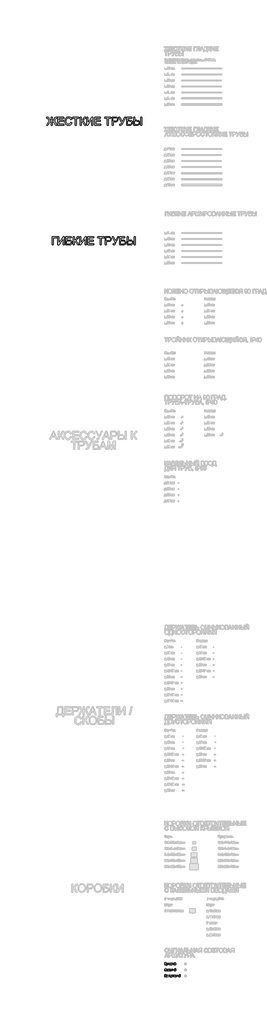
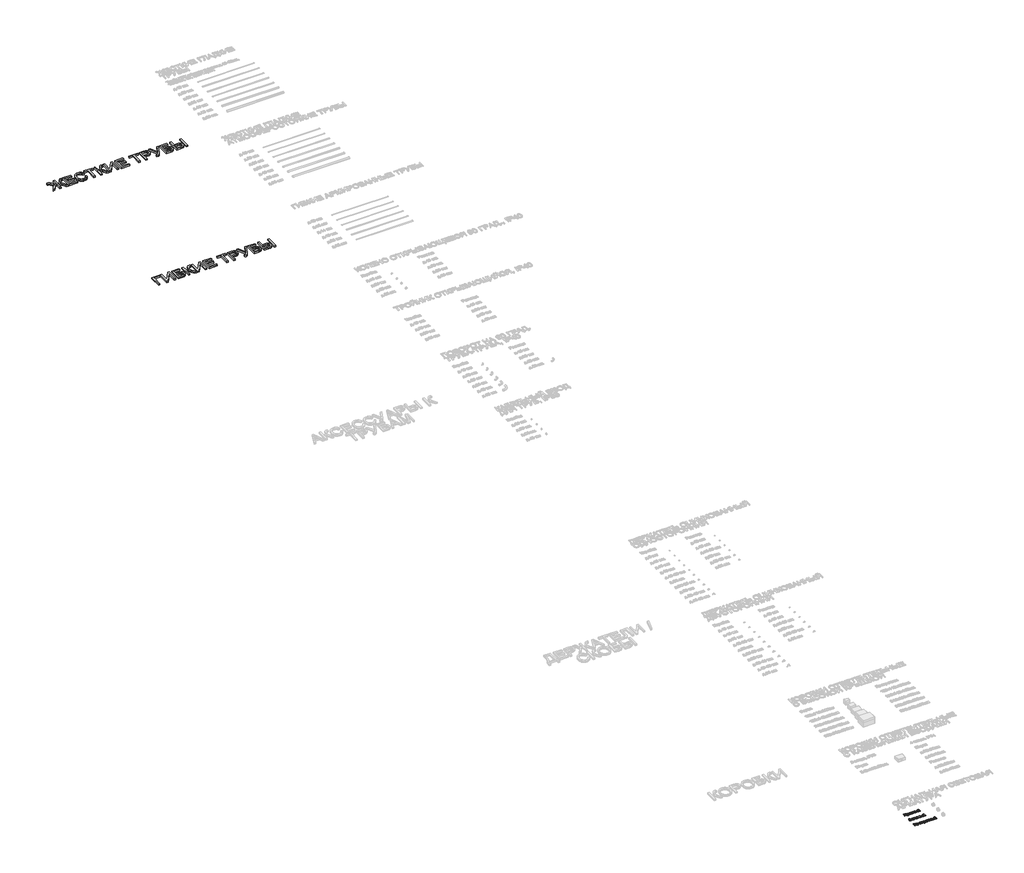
# One storey, part 6 of 98: 5 proxies.
"""IFC4 building model written with IfcOpenShell, lengths in millimetres."""

from ifc_helpers import new_model, si_unit, origin, origin_with_axes, place, context, project, spatial, polyline, outline, extrude, element, save

model = new_model("IFC4")

# Units and contexts
model_context = context("Model", 3, world=origin())
ifc_project = project(units=[si_unit("LENGTHUNIT", "METRE", prefix="MILLI")], contexts=[model_context])

# Site, building, storey
site = spatial("IfcSite", under=ifc_project)
building = spatial("IfcBuilding", under=site)
storey = spatial("IfcBuildingStorey", under=building, Name="Этаж 01", Elevation=0.0)

# Proxies
placement = place(None, origin())
element("IfcBuildingElementProxy", 1, Name="100", ObjectType="100", at=placement, inside=storey, context=model_context, shape_type="SweptSolid", body=[
    extrude(outline(polyline([(-36.4035925, -48303.7661071), (-23.8465538, -48303.7661071), (-23.8465538, -48347.7157428), (-9.8057243, -48344.3925421), (-0.0078005, -48327.580335), (6.9206438, -48313.5395055), (14.768793, -48306.5865358), (25.9891938, -48303.7661071), (34.2297505, -48303.9132599), (34.2297505, -48316.4702987), (31.4583728, -48316.3967223), (28.6869951, -48316.3231459), (18.8768086, -48319.3397783), (11.4210668, -48332.264699), (2.5305853, -48348.0100484), (-6.1391671, -48353.2094473), (3.5545235, -48358.8870927), (13.113324, -48370.7206303), (34.2297505, -48404.2224173), (19.6616235, -48404.2224173), (1.807084, -48375.9200291), (-10.7622175, -48361.1434356), (-23.8465538, -48357.1335219), (-23.8465538, -48404.2224173), (-36.4035925, -48404.2224173), (-36.4035925, -48303.7661071)])), origin_with_axes(), (0.0, 0.0, 1.0), 10.0),
    extrude(outline(polyline([(43.6475296, -48432.4757545), (43.6475296, -48330.4498145), (56.2045684, -48330.4498145), (56.2045684, -48342.7615986), (64.8865835, -48332.3505382), (76.6097564, -48328.8801847), (92.526784, -48333.736227), (102.9255818, -48347.4214372), (106.4327234, -48366.7720302), (102.4718606, -48387.1159045), (90.9694169, -48400.972793), (75.0891775, -48405.7920471), (64.1630822, -48402.5669483), (56.2045684, -48394.4122307), (56.2045684, -48432.4757545), (43.6475296, -48432.4757545)]), holes=[polyline([(56.2045684, -48367.9247271), (57.5626661, -48379.1819161), (61.6369592, -48387.0545908), (67.6487641, -48391.689904), (74.8193973, -48393.2350084), (82.1065265, -48391.6347217), (88.2716156, -48386.8338616), (92.4746674, -48378.6730127), (93.8756847, -48366.9927594), (92.5083899, -48355.796884), (88.4065057, -48347.8138447), (82.4038978, -48343.0313788), (75.3344321, -48341.4372234), (68.2373753, -48343.1325463), (62.0048412, -48348.2185149), (57.6546366, -48356.5357137), (56.2045684, -48367.9247271)])]), origin_with_axes(), (0.0, 0.0, 1.0), 10.0),
    extrude(outline(polyline([(167.6482874, -48394.8046382), (155.4713934, -48403.314975), (142.0191751, -48405.7920471), (131.5253412, -48404.302125), (123.7844909, -48399.8323588), (119.011222, -48393.044936), (117.4201324, -48384.6020442), (119.8236281, -48374.6692303), (126.1389357, -48367.4587432), (134.9313153, -48363.3384649), (145.7960969, -48361.450004), (167.574711, -48357.1335219), (167.6482874, -48354.3376187), (164.1901967, -48345.0669925), (150.3087827, -48341.4372234), (137.6045912, -48343.8529819), (131.546801, -48352.4246324), (118.9897622, -48350.8550025), (124.422153, -48338.5922693), (135.360511, -48331.4063077), (151.9274635, -48328.8801847), (167.1455154, -48331.1120021), (175.7416913, -48336.7160712), (179.5921896, -48345.2386707), (180.2053262, -48356.2260796), (180.2053262, -48371.8488017), (180.8429883, -48393.664204), (183.3445859, -48404.2224173), (170.7875471, -48404.2224173), (167.6482874, -48394.8046382)]), holes=[polyline([(167.6482874, -48369.6905607), (147.3902522, -48373.5410589), (136.5867843, -48375.5766726), (131.6939538, -48378.8876105), (129.9771711, -48383.7191274), (133.7173048, -48390.5126816), (144.6924509, -48393.2350084), (157.3966425, -48390.2306387), (165.5881483, -48382.958838), (167.574711, -48373.2467533), (167.6482874, -48369.6905607)])]), origin_with_axes(), (0.0, 0.0, 1.0), 10.0),
    extrude(outline(polyline([(244.5601499, -48377.5387099), (257.1171887, -48379.1083397), (253.6161784, -48390.276624), (247.037222, -48398.7164501), (237.9995877, -48404.0231479), (227.1225433, -48405.7920471), (213.7653612, -48403.3241721), (203.3205782, -48395.9205469), (196.5791407, -48383.9061341), (194.3319948, -48367.605896), (198.1702303, -48346.7469869), (209.8688778, -48333.3438195), (226.9508651, -48328.8801847), (237.5611949, -48330.4130263), (246.0439406, -48335.0115513), (252.129322, -48342.4305048), (255.5475588, -48352.4246324), (242.9905201, -48353.9942622), (237.1657218, -48344.5887459), (227.0489669, -48341.4372234), (218.9341033, -48342.9884592), (212.4931027, -48347.6421664), (208.2900509, -48355.6497312), (206.8890336, -48367.2625395), (208.259394, -48379.0316977), (212.3704753, -48387.0668536), (218.69498, -48391.6929697), (226.7056104, -48393.2350084), (238.5391479, -48389.3845101), (244.5601499, -48377.5387099)])), origin_with_axes(), (0.0, 0.0, 1.0), 10.0),
    extrude(outline(polyline([(268.1045976, -48330.4498145), (280.6616364, -48330.4498145), (280.6616364, -48358.7031517), (313.6238631, -48358.7031517), (313.6238631, -48330.4498145), (326.1809019, -48330.4498145), (326.1809019, -48404.2224173), (313.6238631, -48404.2224173), (313.6238631, -48371.2601905), (280.6616364, -48371.2601905), (280.6616364, -48404.2224173), (268.1045976, -48404.2224173), (268.1045976, -48330.4498145)])), origin_with_axes(), (0.0, 0.0, 1.0), 10.0),
    extrude(outline(polyline([(414.0801733, -48330.4498145), (426.637212, -48330.4498145), (426.637212, -48404.2224173), (414.0801733, -48404.2224173), (414.0801733, -48330.4498145)])), origin_with_axes(), (0.0, 0.0, 1.0), 10.0),
    extrude(outline(polyline([(345.0164601, -48330.4498145), (357.5734988, -48330.4498145), (357.5734988, -48357.1335219), (373.098119, -48357.1335219), (386.5166148, -48358.7062174), (396.4586257, -48363.424304), (402.6114521, -48370.9076369), (404.6623942, -48380.7760715), (402.9425459, -48389.7615892), (397.7830009, -48397.343024), (388.8465341, -48402.502569), (375.7959203, -48404.2224173), (345.0164601, -48404.2224173), (345.0164601, -48330.4498145)]), holes=[polyline([(357.5734988, -48391.6653785), (370.4738941, -48391.6653785), (387.1266858, -48389.0288909), (392.1053554, -48380.8005969), (388.4142728, -48373.075075), (372.1171004, -48369.6905607), (357.5734988, -48369.6905607), (357.5734988, -48391.6653785)])]), origin_with_axes(), (0.0, 0.0, 1.0), 10.0),
    extrude(outline(polyline([(445.4727702, -48330.4498145), (458.029809, -48330.4498145), (458.029809, -48386.7112343), (488.8828456, -48330.4498145), (505.1187044, -48330.4498145), (505.1187044, -48404.2224173), (492.5616656, -48404.2224173), (492.5616656, -48348.304354), (461.9048327, -48404.2224173), (445.4727702, -48404.2224173), (445.4727702, -48330.4498145)])), origin_with_axes(), (0.0, 0.0, 1.0), 10.0),
    extrude(outline(polyline([(486.2831462, -48303.7661071), (495.7009253, -48303.7661071), (489.6063469, -48317.7333602), (476.0805522, -48322.6016653), (461.4388488, -48317.7701484), (454.8905493, -48303.7661071), (464.3083284, -48303.7661071), (467.8399955, -48310.8417042), (474.9523807, -48313.1838862), (482.751479, -48310.9152806), (486.2831462, -48303.7661071)])), origin_with_axes(), (0.0, 0.0, 1.0), 10.0),
])
element("IfcBuildingElementProxy", 2, Name="100", ObjectType="100", at=placement, inside=storey, context=model_context, shape_type="SweptSolid", body=[
    extrude(outline(polyline([(-41.1124821, -48675.9690801), (-28.5554433, -48672.8298204), (-20.8421842, -48686.4291915), (-13.555055, -48691.5335541), (-4.2261807, -48693.2350084), (12.4388737, -48688.1214486), (17.0098075, -48682.4775257), (18.5334521, -48675.7728763), (16.868786, -48668.7493959), (11.874788, -48663.3262022), (-6.2617944, -48658.7031517), (-12.8591449, -48658.7031517), (-12.8591449, -48646.146113), (1.3533629, -48645.1283061), (10.0476407, -48639.9289073), (13.8245625, -48630.4252891), (8.7968419, -48619.4256174), (-4.8147919, -48614.7535161), (-17.6293481, -48618.3464969), (-24.9624625, -48627.8746406), (-26.9858135, -48636.7283339), (-39.5428522, -48633.5890742), (-35.6417702, -48619.8548131), (-28.5738374, -48610.0446265), (-18.3390537, -48604.1585146), (-4.9374192, -48602.1964773), (7.9905672, -48604.2351567), (17.9325781, -48610.3511948), (24.2693455, -48619.1956911), (26.3816013, -48629.4197449), (23.0951888, -48641.848025), (13.2359513, -48651.1247826), (25.9646684, -48659.7700095), (31.0904908, -48675.4049943), (28.6318128, -48687.2967798), (21.2557788, -48697.0732438), (9.8207801, -48703.6123463), (-4.8147919, -48705.7920471), (-17.5496403, -48703.9281117), (-27.8442048, -48698.3363054), (-35.6984854, -48689.0166282), (-41.1124821, -48675.9690801)])), origin_with_axes(), (0.0, 0.0, 1.0), 10.0),
    extrude(outline(polyline([(98.4374214, -48682.2475994), (110.7492055, -48683.8172293), (106.3131618, -48693.0939869), (99.2344991, -48700.0285625), (89.6726329, -48704.351176), (77.7869788, -48705.7920471), (63.0533048, -48703.305778), (51.716408, -48695.8469705), (44.4875268, -48683.9000027), (42.0778998, -48667.9492526), (44.5120523, -48651.4620078), (51.8145099, -48639.1318296), (62.9981225, -48631.4430959), (77.0757402, -48628.8801847), (90.7149652, -48631.4369645), (101.6134693, -48639.1073041), (108.7595771, -48651.4129569), (111.141613, -48667.8756762), (111.0680366, -48671.2601905), (54.6349385, -48671.2601905), (56.808508, -48680.6595755), (61.8576884, -48687.5696256), (69.1448176, -48691.8186627), (78.0322334, -48693.2350084), (90.3440175, -48690.6107835), (98.4374214, -48682.2475994)]), holes=[polyline([(54.6349385, -48658.7031517), (98.5845742, -48658.7031517), (93.5568536, -48647.3233354), (86.2360019, -48642.9087514), (77.0266893, -48641.4372234), (61.5633828, -48646.1338502), (56.6981434, -48651.624489), (54.6349385, -48658.7031517)])]), origin_with_axes(), (0.0, 0.0, 1.0), 10.0),
    extrude(outline(polyline([(129.9771711, -48630.4498145), (186.4838456, -48630.4498145), (186.4838456, -48704.1488409), (173.9268068, -48704.1488409), (173.9268068, -48643.0068533), (142.5342099, -48643.0068533), (142.5342099, -48678.2008975), (141.6880813, -48694.4367562), (137.0405054, -48701.2916241), (126.0530965, -48704.2224173), (115.8505025, -48703.5847552), (115.8505025, -48691.6653785), (121.4668343, -48691.6653785), (127.1444798, -48690.8928263), (129.4130854, -48688.4402797), (129.9771711, -48677.489659), (129.9771711, -48630.4498145)])), origin_with_axes(), (0.0, 0.0, 1.0), 10.0),
    extrude(outline(polyline([(256.9700359, -48682.2475994), (269.28182, -48683.8172293), (264.8457763, -48693.0939869), (257.7671135, -48700.0285625), (248.2052473, -48704.351176), (236.3195932, -48705.7920471), (221.5859193, -48703.305778), (210.2490225, -48695.8469705), (203.0201413, -48683.9000027), (200.6105142, -48667.9492526), (203.0446667, -48651.4620078), (210.3471244, -48639.1318296), (221.530737, -48631.4430959), (235.6083547, -48628.8801847), (249.2475797, -48631.4369645), (260.1460838, -48639.1073041), (267.2921915, -48651.4129569), (269.6742274, -48667.8756762), (269.600651, -48671.2601905), (213.167553, -48671.2601905), (215.3411224, -48680.6595755), (220.3903028, -48687.5696256), (227.677432, -48691.8186627), (236.5648479, -48693.2350084), (248.876632, -48690.6107835), (256.9700359, -48682.2475994)]), holes=[polyline([(213.167553, -48658.7031517), (257.1171887, -48658.7031517), (252.0894681, -48647.3233354), (244.7686164, -48642.9087514), (235.5593038, -48641.4372234), (220.0959972, -48646.1338502), (215.2307578, -48651.624489), (213.167553, -48658.7031517)])]), origin_with_axes(), (0.0, 0.0, 1.0), 10.0),
    extrude(outline(polyline([(282.2312662, -48630.4498145), (294.788305, -48630.4498145), (294.788305, -48658.7031517), (327.7505317, -48658.7031517), (327.7505317, -48630.4498145), (340.3075705, -48630.4498145), (340.3075705, -48704.2224173), (327.7505317, -48704.2224173), (327.7505317, -48671.2601905), (294.788305, -48671.2601905), (294.788305, -48704.2224173), (282.2312662, -48704.2224173), (282.2312662, -48630.4498145)])), origin_with_axes(), (0.0, 0.0, 1.0), 10.0),
    extrude(outline(polyline([(428.2068419, -48630.4498145), (440.7638807, -48630.4498145), (440.7638807, -48704.2224173), (428.2068419, -48704.2224173), (428.2068419, -48630.4498145)])), origin_with_axes(), (0.0, 0.0, 1.0), 10.0),
    extrude(outline(polyline([(359.1431287, -48630.4498145), (371.7001674, -48630.4498145), (371.7001674, -48657.1335219), (387.2247876, -48657.1335219), (400.6432834, -48658.7062174), (410.5852943, -48663.424304), (416.7381207, -48670.9076369), (418.7890628, -48680.7760715), (417.0692145, -48689.7615892), (411.9096695, -48697.343024), (402.9732027, -48702.502569), (389.9225889, -48704.2224173), (359.1431287, -48704.2224173), (359.1431287, -48630.4498145)]), holes=[polyline([(371.7001674, -48691.6653785), (384.6005627, -48691.6653785), (401.2533544, -48689.0288909), (406.232024, -48680.8005969), (402.5409414, -48673.075075), (386.243769, -48669.6905607), (371.7001674, -48669.6905607), (371.7001674, -48691.6653785)])]), origin_with_axes(), (0.0, 0.0, 1.0), 10.0),
    extrude(outline(polyline([(500.4098148, -48603.7661071), (509.8275939, -48603.7661071), (503.7330155, -48617.7333602), (490.2072208, -48622.6016653), (475.5655174, -48617.7701484), (469.0172179, -48603.7661071), (478.434997, -48603.7661071), (481.9666641, -48610.8417042), (489.0790494, -48613.1838862), (496.8781477, -48610.9152806), (500.4098148, -48603.7661071)])), origin_with_axes(), (0.0, 0.0, 1.0), 10.0),
    extrude(outline(polyline([(459.5994388, -48630.4498145), (472.1564776, -48630.4498145), (472.1564776, -48686.7112343), (503.0095142, -48630.4498145), (519.245373, -48630.4498145), (519.245373, -48704.2224173), (506.6883342, -48704.2224173), (506.6883342, -48648.304354), (476.0315013, -48704.2224173), (459.5994388, -48704.2224173), (459.5994388, -48630.4498145)])), origin_with_axes(), (0.0, 0.0, 1.0), 10.0),
])
element("IfcBuildingElementProxy", 3, Name="100", ObjectType="100", at=placement, inside=storey, context=model_context, shape_type="SweptSolid", body=[
    extrude(outline(polyline([(-36.4035925, -48903.7661071), (42.0778998, -48903.7661071), (42.0778998, -49004.2224173), (29.520861, -49004.2224173), (29.520861, -48916.3231459), (-23.8465538, -48916.3231459), (-23.8465538, -49004.2224173), (-36.4035925, -49004.2224173), (-36.4035925, -48903.7661071)])), origin_with_axes(), (0.0, 0.0, 1.0), 10.0),
    extrude(outline(polyline([(62.4830878, -49032.4757545), (62.4830878, -48930.4498145), (75.0401265, -48930.4498145), (75.0401265, -48942.7615986), (83.7221416, -48932.3505382), (95.4453145, -48928.8801847), (111.3623422, -48933.736227), (121.7611399, -48947.4214372), (125.2682816, -48966.7720302), (121.3074188, -48987.1159045), (109.8049751, -49000.972793), (93.9247356, -49005.7920471), (82.9986404, -49002.5669483), (75.0401265, -48994.4122307), (75.0401265, -49032.4757545), (62.4830878, -49032.4757545)]), holes=[polyline([(75.0401265, -48967.9247271), (76.3982242, -48979.1819161), (80.4725173, -48987.0545908), (86.4843223, -48991.689904), (93.6549555, -48993.2350084), (100.9420847, -48991.6347217), (107.1071738, -48986.8338616), (111.3102256, -48978.6730127), (112.7112428, -48966.9927594), (111.3439481, -48955.796884), (107.2420638, -48947.8138447), (101.2394559, -48943.0313788), (94.1699903, -48941.4372234), (87.0729335, -48943.1325463), (80.8403993, -48948.2185149), (76.4901947, -48956.5357137), (75.0401265, -48967.9247271)])]), origin_with_axes(), (0.0, 0.0, 1.0), 10.0),
    extrude(outline(polyline([(136.2556905, -48967.3361159), (138.9718859, -48949.5490214), (147.1204721, -48937.047165), (157.188176, -48930.9219297), (169.2424428, -48928.8801847), (182.434078, -48931.3664538), (192.9708314, -48938.8252613), (199.8778159, -48950.6679958), (202.1801441, -48966.3060463), (198.1089166, -48988.6487462), (186.2508537, -49001.2916241), (169.2424428, -49005.7920471), (155.891392, -49003.314975), (145.3669013, -48995.8837587), (138.5334932, -48983.7927038), (136.2556905, -48967.3361159)]), holes=[polyline([(148.8127293, -48967.3115904), (150.2658632, -48978.6760784), (154.6252648, -48986.772548), (161.1858271, -48991.6193933), (169.2424428, -48993.2350084), (177.2622703, -48991.6101962), (183.8105698, -48986.7357598), (188.1699714, -48978.5319913), (189.6231053, -48966.919183), (188.1607744, -48955.8857888), (183.7737816, -48947.8996838), (177.216285, -48943.0528385), (169.2424428, -48941.4372234), (161.1858271, -48943.0467072), (154.6252648, -48947.8751584), (150.2658632, -48955.9532338), (148.8127293, -48967.3115904)])]), origin_with_axes(), (0.0, 0.0, 1.0), 10.0),
    extrude(outline(polyline([(233.572741, -48971.2601905), (233.572741, -48958.7031517), (243.4810294, -48958.2126424), (248.4842245, -48955.6006803), (250.8386693, -48950.143764), (247.6871469, -48943.8039309), (239.5569548, -48941.4372234), (231.1569825, -48943.7916682), (225.7245917, -48950.8550025), (211.5979231, -48949.2853727), (221.0402277, -48933.9814817), (238.2816305, -48928.8801847), (248.7785301, -48930.4344861), (256.7247812, -48935.0973904), (261.7279763, -48941.9185357), (263.3957081, -48949.9475603), (261.0228692, -48957.7466586), (253.9043526, -48963.7799233), (262.2062229, -48971.603547), (264.9653379, -48982.8607361), (263.2148327, -48992.1037712), (257.9633173, -48999.4276886), (249.5664107, -49004.2009575), (238.3797324, -49005.7920471), (227.4383087, -49004.3205191), (219.0659276, -48999.9059352), (213.2625892, -48992.5482953), (210.0282933, -48982.2475994), (224.1549619, -48980.6779696), (229.8203446, -48989.9485959), (239.5814802, -48993.2350084), (248.7540046, -48990.0834859), (252.4082991, -48982.0268702), (250.1396935, -48975.4295198), (245.3081766, -48971.8978526), (236.0252876, -48971.1866141), (233.572741, -48971.2601905)])), origin_with_axes(), (0.0, 0.0, 1.0), 10.0),
    extrude(outline(polyline([(280.6616364, -49032.4757545), (280.6616364, -48930.4498145), (293.2186751, -48930.4498145), (293.2186751, -48942.7615986), (301.9006902, -48932.3505382), (313.6238631, -48928.8801847), (329.5408908, -48933.736227), (339.9396885, -48947.4214372), (343.4468302, -48966.7720302), (339.4859674, -48987.1159045), (327.9835237, -49000.972793), (312.1032842, -49005.7920471), (301.177189, -49002.5669483), (293.2186751, -48994.4122307), (293.2186751, -49032.4757545), (280.6616364, -49032.4757545)]), holes=[polyline([(293.2186751, -48967.9247271), (294.5767728, -48979.1819161), (298.6510659, -48987.0545908), (304.6628709, -48991.689904), (311.8335041, -48993.2350084), (319.1206333, -48991.6347217), (325.2857224, -48986.8338616), (329.4887742, -48978.6730127), (330.8897914, -48966.9927594), (329.5224967, -48955.796884), (325.4206124, -48947.8138447), (319.4180046, -48943.0313788), (312.3485389, -48941.4372234), (305.2514821, -48943.1325463), (299.0189479, -48948.2185149), (294.6687433, -48956.5357137), (293.2186751, -48967.9247271)])]), origin_with_axes(), (0.0, 0.0, 1.0), 10.0),
    extrude(outline(polyline([(404.6623942, -48994.8046382), (392.4855002, -49003.314975), (379.0332819, -49005.7920471), (368.539448, -49004.302125), (360.7985976, -48999.8323588), (356.0253288, -48993.044936), (354.4342391, -48984.6020442), (356.8377348, -48974.6692303), (363.1530424, -48967.4587432), (371.9454221, -48963.3384649), (382.8102037, -48961.450004), (404.5888178, -48957.1335219), (404.6623942, -48954.3376187), (401.2043034, -48945.0669925), (387.3228895, -48941.4372234), (374.6186979, -48943.8529819), (368.5609077, -48952.4246324), (356.003869, -48950.8550025), (361.4362598, -48938.5922693), (372.3746178, -48931.4063077), (388.9415703, -48928.8801847), (404.1596221, -48931.1120021), (412.7557981, -48936.7160712), (416.6062963, -48945.2386707), (417.219433, -48956.2260796), (417.219433, -48971.8488017), (417.8570951, -48993.664204), (420.3586927, -49004.2224173), (407.8016539, -49004.2224173), (404.6623942, -48994.8046382)]), holes=[polyline([(404.6623942, -48969.6905607), (384.404359, -48973.5410589), (373.6008911, -48975.5766726), (368.7080605, -48978.8876105), (366.9912779, -48983.7191274), (370.7314115, -48990.5126816), (381.7065577, -48993.2350084), (394.4107493, -48990.2306387), (402.602255, -48982.958838), (404.5888178, -48973.2467533), (404.6623942, -48969.6905607)])]), origin_with_axes(), (0.0, 0.0, 1.0), 10.0),
    extrude(outline(polyline([(429.7764717, -48930.4498145), (442.3335105, -48930.4498145), (442.3335105, -48944.6010086), (443.3513174, -48957.8692859), (448.2441479, -48965.0552475), (457.9562326, -48968.1209308), (475.2957373, -48964.3194835), (475.2957373, -48930.4498145), (487.852776, -48930.4498145), (487.852776, -49004.2224173), (475.2957373, -49004.2224173), (475.2957373, -48976.3614875), (454.5962437, -48980.6779696), (440.3592105, -48976.1775465), (431.9837637, -48965.1533494), (429.7764717, -48950.8059516), (429.7764717, -48930.4498145)])), origin_with_axes(), (0.0, 0.0, 1.0), 10.0),
    extrude(outline(polyline([(506.6883342, -48930.4498145), (519.245373, -48930.4498145), (519.245373, -48958.7031517), (552.2075997, -48958.7031517), (552.2075997, -48930.4498145), (564.7646385, -48930.4498145), (564.7646385, -49004.2224173), (552.2075997, -49004.2224173), (552.2075997, -48971.2601905), (519.245373, -48971.2601905), (519.245373, -49004.2224173), (506.6883342, -49004.2224173), (506.6883342, -48930.4498145)])), origin_with_axes(), (0.0, 0.0, 1.0), 10.0),
    extrude(outline(polyline([(583.6001967, -48930.4498145), (596.1572354, -48930.4498145), (596.1572354, -48957.1335219), (611.6818556, -48957.1335219), (625.1003514, -48958.7062174), (635.0423623, -48963.424304), (641.1951887, -48970.9076369), (643.2461308, -48980.7760715), (641.5262825, -48989.7615892), (636.3667375, -48997.343024), (627.4302707, -49002.502569), (614.3796569, -49004.2224173), (583.6001967, -49004.2224173), (583.6001967, -48930.4498145)]), holes=[polyline([(596.1572354, -48991.6653785), (609.0576307, -48991.6653785), (625.7104224, -48989.0288909), (630.689092, -48980.8005969), (626.9980094, -48973.075075), (610.700837, -48969.6905607), (596.1572354, -48969.6905607), (596.1572354, -48991.6653785)])]), origin_with_axes(), (0.0, 0.0, 1.0), 10.0),
    extrude(outline(polyline([(652.6639099, -48930.4498145), (665.2209487, -48930.4498145), (665.2209487, -49004.2224173), (652.6639099, -49004.2224173), (652.6639099, -48930.4498145)])), origin_with_axes(), (0.0, 0.0, 1.0), 10.0),
    extrude(outline(polyline([(724.8668828, -48903.7661071), (734.2846619, -48903.7661071), (728.1900835, -48917.7333602), (714.6642888, -48922.6016653), (700.0225854, -48917.7701484), (693.4742859, -48903.7661071), (702.892065, -48903.7661071), (706.4237321, -48910.8417042), (713.5361174, -48913.1838862), (721.3352157, -48910.9152806), (724.8668828, -48903.7661071)])), origin_with_axes(), (0.0, 0.0, 1.0), 10.0),
    extrude(outline(polyline([(684.0565068, -48930.4498145), (696.6135456, -48930.4498145), (696.6135456, -48986.7112343), (727.4665822, -48930.4498145), (743.702441, -48930.4498145), (743.702441, -49004.2224173), (731.1454022, -49004.2224173), (731.1454022, -48948.304354), (700.4885693, -49004.2224173), (684.0565068, -49004.2224173), (684.0565068, -48930.4498145)])), origin_with_axes(), (0.0, 0.0, 1.0), 10.0),
])
element("IfcBuildingElementProxy", 4, Name="400", ObjectType="400", at=placement, inside=storey, context=model_context, shape_type="SweptSolid", body=[
    extrude(outline(polyline([(-5654.9304069, -6037.3892759), (-5654.9304069, -6213.1878187), (-5618.1912583, -6209.8033043), (-5595.088269, -6199.6497612), (-5577.0130003, -6176.1543645), (-5555.3570135, -6132.744289), (-5526.9074725, -6076.5809711), (-5513.3571524, -6061.2893428), (-5495.0734172, -6048.6709904), (-5473.4296932, -6040.2097045), (-5449.7994064, -6037.3892759), (-5416.3466703, -6037.9778871), (-5416.3466703, -6087.617431), (-5427.3340792, -6087.3231254), (-5438.6157937, -6087.0288198), (-5462.086665, -6090.0945031), (-5478.5432529, -6099.2915529), (-5492.8170743, -6118.2497384), (-5508.9548312, -6150.5988285), (-5526.2575477, -6186.0503901), (-5541.0831921, -6208.0374707), (-5557.723721, -6222.0047238), (-5580.471091, -6233.3968029), (-5560.4644419, -6242.0052416), (-5540.764361, -6256.8431488), (-5521.3708485, -6277.9105243), (-5502.2839043, -6305.2073684), (-5416.3466703, -6439.2145165), (-5474.7172802, -6439.2145165), (-5547.6069661, -6325.5144545), (-5575.0632257, -6290.6147159), (-5597.7860703, -6267.7324558), (-5622.250223, -6255.0773152), (-5654.9304069, -6250.858935), (-5654.9304069, -6439.2145165), (-5705.1585619, -6439.2145165), (-5705.1585619, -6250.858935), (-5732.6638724, -6254.1330847), (-5756.7110922, -6263.955534), (-5780.9054647, -6284.5937139), (-5808.8522336, -6320.3150557), (-5812.4820027, -6325.5144545), (-5885.3716886, -6439.2145165), (-5943.7422985, -6439.2145165), (-5857.9031663, -6305.2073684), (-5838.5096538, -6277.8001597), (-5818.9812512, -6256.695996), (-5799.3179586, -6241.894877), (-5779.5197759, -6233.3968029), (-5800.2683204, -6223.4517263), (-5816.7984847, -6210.6862211), (-5832.5928851, -6188.5765132), (-5851.1341376, -6150.5988285), (-5868.0812349, -6116.6555831), (-5882.4286327, -6098.2124324), (-5898.590915, -6090.2661813), (-5921.1788695, -6087.617431), (-5943.7422985, -6088.2060422), (-5943.7422985, -6037.9778871), (-5912.055396, -6037.3892759), (-5886.6960638, -6040.1483909), (-5864.9665006, -6048.4257357), (-5847.1978003, -6060.8601472), (-5833.7210565, -6076.0904618), (-5804.7319553, -6132.8423909), (-5783.0637058, -6176.7307129), (-5765.1478526, -6199.8950159), (-5742.1307025, -6209.6193633), (-5705.1585619, -6213.1878187), (-5705.1585619, -6037.3892759), (-5654.9304069, -6037.3892759)])), origin_with_axes(), (0.0, 0.0, 1.0), 50.0),
    extrude(outline(polyline([(-5378.675554, -6439.2145165), (-5378.675554, -6037.3892759), (-5089.8636623, -6037.3892759), (-5089.8636623, -6087.617431), (-5328.4473989, -6087.617431), (-5328.4473989, -6206.9092993), (-5102.420701, -6206.9092993), (-5102.420701, -6257.1374543), (-5328.4473989, -6257.1374543), (-5328.4473989, -6388.9863614), (-5083.5851429, -6388.9863614), (-5083.5851429, -6439.2145165), (-5378.675554, -6439.2145165)])), origin_with_axes(), (0.0, 0.0, 1.0), 50.0),
    extrude(outline(polyline([(-4725.709538, -6296.3782005), (-4675.4813829, -6309.3276467), (-4685.4203281, -6340.5638938), (-4698.6579486, -6367.8576722), (-4715.1942443, -6391.2089818), (-4735.0292152, -6410.6178227), (-4757.7152716, -6425.8757285), (-4782.8048236, -6436.7742326), (-4810.2978714, -6443.3133351), (-4840.1944149, -6445.4930359), (-4870.8236567, -6443.8436983), (-4898.4546602, -6438.8956854), (-4923.0874254, -6430.6489974), (-4944.7219524, -6419.1036341), (-4963.6556125, -6404.4312738), (-4980.1857768, -6386.8035949), (-4994.3124454, -6366.2205973), (-5006.0356183, -6342.682281), (-5021.8177559, -6290.8109196), (-5027.0784684, -6235.2607384), (-5021.1310428, -6176.6693993), (-5013.6967609, -6150.371968), (-5003.2887661, -6126.0733622), (-4990.1400504, -6104.1751864), (-4974.4836059, -6085.0790452), (-4956.3194323, -6068.7849385), (-4935.6475299, -6055.2928663), (-4913.16994, -6044.7131933), (-4889.5887041, -6037.156284), (-4839.1152944, -6031.1107565), (-4810.3867762, -6033.0666625), (-4784.0433597, -6038.9343803), (-4760.0850447, -6048.71391), (-4738.5118314, -6062.4052516), (-4719.6793389, -6079.6466544), (-4703.9431866, -6100.0763679), (-4691.3033744, -6123.694392), (-4681.7599023, -6150.5007267), (-4731.9880574, -6162.4691543), (-4749.4011385, -6125.8403703), (-4773.1908408, -6100.71403), (-4803.65147, -6086.1826912), (-4841.0773317, -6081.3389116), (-4884.217627, -6086.7099887), (-4902.899901, -6093.4238351), (-4919.6569258, -6102.8232201), (-4946.5490997, -6127.9863486), (-4964.0480199, -6160.5071169), (-4973.64974, -6197.270791), (-4976.8503134, -6235.1626365), (-4973.0611288, -6281.5648188), (-4961.6935752, -6321.6884818), (-4942.3184567, -6354.0007837), (-4914.5065779, -6376.9688829), (-4881.1642064, -6390.6908813), (-4845.19761, -6395.2648808), (-4823.3607479, -6393.7075137), (-4803.2713253, -6389.0354124), (-4784.9293422, -6381.2485768), (-4768.3347985, -6370.347007), (-4753.8801018, -6356.3797539), (-4741.9576594, -6339.3958685), (-4732.5674715, -6319.3953507), (-4725.709538, -6296.3782005)])), origin_with_axes(), (0.0, 0.0, 1.0), 50.0),
    extrude(outline(polyline([(-4505.9613595, -6439.2145165), (-4505.9613595, -6087.617431), (-4637.8102666, -6087.617431), (-4637.8102666, -6037.3892759), (-4323.8842974, -6037.3892759), (-4323.8842974, -6087.617431), (-4455.7332045, -6087.617431), (-4455.7332045, -6439.2145165), (-4505.9613595, -6439.2145165)])), origin_with_axes(), (0.0, 0.0, 1.0), 50.0),
    extrude(outline(polyline([(-4267.3776229, -6037.3892759), (-4217.1494678, -6037.3892759), (-4217.1494678, -6213.1878187), (-4183.1449088, -6209.864618), (-4160.9861499, -6199.8950159), (-4143.0702968, -6176.4364073), (-4121.7944547, -6132.6461872), (-4094.0806777, -6076.4828692), (-4080.7142986, -6061.2648174), (-4062.6880808, -6048.6709904), (-4041.2896114, -6040.2097045), (-4017.8064774, -6037.3892759), (-3984.8442506, -6037.9778871), (-3984.8442506, -6088.2060422), (-3995.9297614, -6087.9117366), (-4007.0152722, -6087.617431), (-4030.0201596, -6090.6340633), (-4046.2560184, -6099.6839604), (-4060.2355342, -6118.6911968), (-4076.0789854, -6151.3836435), (-4095.5154175, -6192.0959176), (-4111.6409116, -6214.365041), (-4127.5456766, -6226.088214), (-4146.319921, -6235.1626365), (-4126.8650949, -6243.4399814), (-4107.5451588, -6257.8732183), (-4088.3601127, -6278.4623473), (-4069.3099567, -6305.2073684), (-3984.8442506, -6439.2145165), (-4043.1167587, -6439.2145165), (-4114.5349167, -6326.0049638), (-4142.1138036, -6289.6950109), (-4164.8121227, -6266.89859), (-4188.0254766, -6254.8688487), (-4217.1494678, -6250.858935), (-4217.1494678, -6439.2145165), (-4267.3776229, -6439.2145165), (-4267.3776229, -6037.3892759)])), origin_with_axes(), (0.0, 0.0, 1.0), 50.0),
    extrude(outline(polyline([(-3940.8946149, -6037.3892759), (-3890.6664599, -6037.3892759), (-3890.6664599, -6355.6317272), (-3680.3360605, -6037.3892759), (-3626.9686457, -6037.3892759), (-3626.9686457, -6439.2145165), (-3677.1968008, -6439.2145165), (-3677.1968008, -6121.854982), (-3887.0366908, -6439.2145165), (-3940.8946149, -6439.2145165), (-3940.8946149, -6037.3892759)])), origin_with_axes(), (0.0, 0.0, 1.0), 50.0),
    extrude(outline(polyline([(-3539.0693743, -6439.2145165), (-3539.0693743, -6037.3892759), (-3250.2574827, -6037.3892759), (-3250.2574827, -6087.617431), (-3488.8412193, -6087.617431), (-3488.8412193, -6206.9092993), (-3262.8145214, -6206.9092993), (-3262.8145214, -6257.1374543), (-3488.8412193, -6257.1374543), (-3488.8412193, -6388.9863614), (-3243.9789633, -6388.9863614), (-3243.9789633, -6439.2145165), (-3539.0693743, -6439.2145165)])), origin_with_axes(), (0.0, 0.0, 1.0), 50.0),
    extrude(outline(polyline([(-2911.2174359, -6439.2145165), (-2911.2174359, -6087.617431), (-3043.066343, -6087.617431), (-3043.066343, -6037.3892759), (-2729.1403738, -6037.3892759), (-2729.1403738, -6087.617431), (-2860.9892808, -6087.617431), (-2860.9892808, -6439.2145165), (-2911.2174359, -6439.2145165)])), origin_with_axes(), (0.0, 0.0, 1.0), 50.0),
    extrude(outline(polyline([(-2672.6336993, -6439.2145165), (-2672.6336993, -6037.3892759), (-2523.7150677, -6037.3892759), (-2463.676726, -6041.2152486), (-2436.9071795, -6048.3644221), (-2414.871048, -6060.0017559), (-2397.1268731, -6076.6545475), (-2383.2331964, -6098.8500946), (-2374.2568757, -6125.0310299), (-2371.2647689, -6153.6399864), (-2373.2850541, -6178.3064741), (-2379.34591, -6200.9986619), (-2389.4473365, -6221.7165496), (-2403.5893335, -6240.4601372), (-2423.0043058, -6255.9970202), (-2448.924658, -6267.0947937), (-2481.3503902, -6273.7534578), (-2520.2815024, -6275.9730125), (-2622.4055442, -6275.9730125), (-2622.4055442, -6439.2145165), (-2672.6336993, -6439.2145165)]), holes=[polyline([(-2622.4055442, -6225.7448574), (-2517.3384464, -6225.7448574), (-2472.8001995, -6221.1340698), (-2456.1964588, -6215.3705852), (-2443.3696399, -6207.3017067), (-2433.7985767, -6197.1420323), (-2426.9621029, -6185.1061597), (-2421.4929239, -6155.4058199), (-2424.7180227, -6132.8423909), (-2434.3933192, -6113.810629), (-2449.3170655, -6099.4877567), (-2468.2875137, -6091.0509963), (-2518.5156688, -6087.617431), (-2622.4055442, -6087.617431), (-2622.4055442, -6225.7448574)])]), origin_with_axes(), (0.0, 0.0, 1.0), 50.0),
    extrude(outline(polyline([(-2330.4543929, -6037.3892759), (-2274.8306352, -6037.3892759), (-2154.6558501, -6275.3844013), (-2046.5475944, -6037.3892759), (-1991.4143461, -6037.3892759), (-2143.9627468, -6350.4323283), (-2166.9921597, -6399.0418026), (-2185.4598358, -6427.3441908), (-2205.1537853, -6440.9558246), (-2231.8620181, -6445.4930359), (-2277.0869781, -6439.2145165), (-2277.0869781, -6395.2648808), (-2237.5519263, -6395.2648808), (-2221.7330005, -6392.4689776), (-2208.2194686, -6384.0812681), (-2195.2454969, -6365.7607448), (-2181.0452519, -6333.1664), (-2330.4543929, -6037.3892759)])), origin_with_axes(), (0.0, 0.0, 1.0), 50.0),
    extrude(outline(polyline([(-1944.3254507, -6037.3892759), (-1693.1846753, -6037.3892759), (-1693.1846753, -6087.617431), (-1894.0972956, -6087.617431), (-1894.0972956, -6206.9092993), (-1800.0176067, -6206.9092993), (-1753.2475424, -6209.4599478), (-1717.1215305, -6217.1118933), (-1689.3832281, -6231.8516985), (-1667.7762922, -6255.6659264), (-1653.8703528, -6286.3227593), (-1649.2350396, -6321.5903799), (-1652.5337149, -6351.2048805), (-1662.4297405, -6378.8328184), (-1678.8740657, -6403.0271909), (-1701.8176395, -6422.3409956), (-1717.213501, -6429.723161), (-1737.2078874, -6434.9961363), (-1790.9922351, -6439.2145165), (-1944.3254507, -6439.2145165), (-1944.3254507, -6037.3892759)]), holes=[polyline([(-1894.0972956, -6388.9863614), (-1786.4795493, -6388.9863614), (-1748.440551, -6384.8415576), (-1721.2418088, -6372.4071462), (-1711.7136652, -6363.0813376), (-1704.9078483, -6351.6831271), (-1699.4631947, -6322.6695004), (-1702.577929, -6301.0625646), (-1711.9221316, -6283.3306524), (-1726.8213524, -6270.1850024), (-1746.601141, -6262.3368532), (-1776.6325746, -6258.4373041), (-1822.2867302, -6257.1374543), (-1894.0972956, -6257.1374543), (-1894.0972956, -6388.9863614)])]), origin_with_axes(), (0.0, 0.0, 1.0), 50.0),
    extrude(outline(polyline([(-1580.1713264, -6037.3892759), (-1529.9431713, -6037.3892759), (-1529.9431713, -6206.9092993), (-1433.4109358, -6206.9092993), (-1390.0805681, -6209.1043285), (-1354.8558671, -6215.6894162), (-1327.7368327, -6226.6645624), (-1308.7234649, -6242.0297671), (-1295.6329973, -6260.1786122), (-1286.2826632, -6279.5046797), (-1280.6724628, -6300.0079695), (-1278.802396, -6321.6884818), (-1280.7797617, -6344.4511802), (-1286.7118589, -6365.7484821), (-1296.5986875, -6385.5803873), (-1310.4402476, -6403.9468959), (-1329.6528848, -6419.3764799), (-1355.6529448, -6430.3976113), (-1388.4404276, -6437.0102902), (-1428.0153332, -6439.2145165), (-1580.1713264, -6439.2145165), (-1580.1713264, -6037.3892759)]), holes=[polyline([(-1529.9431713, -6388.9863614), (-1428.5058425, -6388.9863614), (-1383.3912472, -6385.0009731), (-1352.6240497, -6373.0448083), (-1342.301894, -6363.8753496), (-1334.9289257, -6352.3085265), (-1330.5051447, -6338.3443391), (-1329.030551, -6321.9827874), (-1332.5990064, -6300.0815459), (-1343.3043725, -6282.0553282), (-1359.6628585, -6268.8851527), (-1380.1906738, -6261.5520383), (-1455.6800593, -6257.1374543), (-1529.9431713, -6257.1374543), (-1529.9431713, -6388.9863614)])]), origin_with_axes(), (0.0, 0.0, 1.0), 50.0),
    extrude(outline(polyline([(-1228.5742409, -6037.3892759), (-1178.3460858, -6037.3892759), (-1178.3460858, -6439.2145165), (-1228.5742409, -6439.2145165), (-1228.5742409, -6037.3892759)])), origin_with_axes(), (0.0, 0.0, 1.0), 50.0),
])
element("IfcBuildingElementProxy", 5, Name="400", ObjectType="400", at=placement, inside=storey, context=model_context, shape_type="SweptSolid", body=[
    extrude(outline(polyline([(-5669.0712643, -12015.52159), (-5417.9304889, -12015.52159), (-5417.9304889, -12065.749745), (-5618.8431092, -12065.749745), (-5618.8431092, -12417.3468306), (-5669.0712643, -12417.3468306), (-5669.0712643, -12015.52159)])), origin_with_axes(), (0.0, 0.0, 1.0), 50.0),
    extrude(outline(polyline([(-5373.9808532, -12015.52159), (-5323.7526981, -12015.52159), (-5323.7526981, -12333.7640412), (-5113.4222988, -12015.52159), (-5060.054884, -12015.52159), (-5060.054884, -12417.3468306), (-5110.2830391, -12417.3468306), (-5110.2830391, -12099.987296), (-5320.1229291, -12417.3468306), (-5373.9808532, -12417.3468306), (-5373.9808532, -12015.52159)])), origin_with_axes(), (0.0, 0.0, 1.0), 50.0),
    extrude(outline(polyline([(-4972.1556126, -12015.52159), (-4721.0148372, -12015.52159), (-4721.0148372, -12065.749745), (-4921.9274575, -12065.749745), (-4921.9274575, -12185.0416133), (-4827.8477686, -12185.0416133), (-4781.0777043, -12187.5922618), (-4744.9516924, -12195.2442073), (-4717.21339, -12209.9840126), (-4695.6064541, -12233.7982404), (-4681.7005147, -12264.4550734), (-4677.0652015, -12299.722694), (-4680.3638768, -12329.3371946), (-4690.2599024, -12356.9651324), (-4706.7042276, -12381.159505), (-4729.6478014, -12400.4733097), (-4745.0436629, -12407.8554751), (-4765.0380493, -12413.1284503), (-4818.822397, -12417.3468306), (-4972.1556126, -12417.3468306), (-4972.1556126, -12015.52159)]), holes=[polyline([(-4921.9274575, -12367.1186755), (-4814.3097112, -12367.1186755), (-4776.2707129, -12362.9738717), (-4749.0719707, -12350.5394602), (-4739.5438271, -12341.2136516), (-4732.7380102, -12329.8154412), (-4727.2933566, -12300.8018145), (-4730.4080909, -12279.1948786), (-4739.7522935, -12261.4629665), (-4754.6515143, -12248.3173165), (-4774.4313029, -12240.4691673), (-4804.4627365, -12236.5696181), (-4850.1168921, -12235.2697684), (-4921.9274575, -12235.2697684), (-4921.9274575, -12367.1186755)])]), origin_with_axes(), (0.0, 0.0, 1.0), 50.0),
    extrude(outline(polyline([(-4608.0014883, -12015.52159), (-4557.7733332, -12015.52159), (-4557.7733332, -12191.3201327), (-4523.7687742, -12187.996932), (-4501.6100153, -12178.02733), (-4483.6941622, -12154.5687214), (-4462.4183201, -12110.7785012), (-4434.7045431, -12054.6151833), (-4421.338164, -12039.3971314), (-4403.3119462, -12026.8033045), (-4381.9134768, -12018.3420186), (-4358.4303428, -12015.52159), (-4325.468116, -12016.1102011), (-4325.468116, -12066.3383562), (-4336.5536268, -12066.0440506), (-4347.6391376, -12065.749745), (-4370.644025, -12068.7663774), (-4386.8798838, -12077.8162745), (-4400.8593996, -12096.8235109), (-4416.7028508, -12129.5159575), (-4436.1392829, -12170.2282317), (-4452.264777, -12192.4973551), (-4468.169542, -12204.220528), (-4486.9437864, -12213.2949506), (-4467.4889603, -12221.5722955), (-4448.1690242, -12236.0055324), (-4428.9839781, -12256.5946614), (-4409.9338221, -12283.3396824), (-4325.468116, -12417.3468306), (-4383.7406241, -12417.3468306), (-4455.1587821, -12304.1372779), (-4482.737669, -12267.827325), (-4505.4359881, -12245.030904), (-4528.649342, -12233.0011628), (-4557.7733332, -12228.991249), (-4557.7733332, -12417.3468306), (-4608.0014883, -12417.3468306), (-4608.0014883, -12015.52159)])), origin_with_axes(), (0.0, 0.0, 1.0), 50.0),
    extrude(outline(polyline([(-4281.5184803, -12015.52159), (-4231.2903253, -12015.52159), (-4231.2903253, -12333.7640412), (-4020.9599259, -12015.52159), (-3967.5925111, -12015.52159), (-3967.5925111, -12417.3468306), (-4017.8206662, -12417.3468306), (-4017.8206662, -12099.987296), (-4227.6605562, -12417.3468306), (-4281.5184803, -12417.3468306), (-4281.5184803, -12015.52159)])), origin_with_axes(), (0.0, 0.0, 1.0), 50.0),
    extrude(outline(polyline([(-3879.6932397, -12417.3468306), (-3879.6932397, -12015.52159), (-3590.8813481, -12015.52159), (-3590.8813481, -12065.749745), (-3829.4650847, -12065.749745), (-3829.4650847, -12185.0416133), (-3603.4383868, -12185.0416133), (-3603.4383868, -12235.2697684), (-3829.4650847, -12235.2697684), (-3829.4650847, -12367.1186755), (-3584.6028287, -12367.1186755), (-3584.6028287, -12417.3468306), (-3879.6932397, -12417.3468306)])), origin_with_axes(), (0.0, 0.0, 1.0), 50.0),
    extrude(outline(polyline([(-3251.8413013, -12417.3468306), (-3251.8413013, -12065.749745), (-3383.6902084, -12065.749745), (-3383.6902084, -12015.52159), (-3069.7642392, -12015.52159), (-3069.7642392, -12065.749745), (-3201.6131462, -12065.749745), (-3201.6131462, -12417.3468306), (-3251.8413013, -12417.3468306)])), origin_with_axes(), (0.0, 0.0, 1.0), 50.0),
    extrude(outline(polyline([(-3013.2575647, -12417.3468306), (-3013.2575647, -12015.52159), (-2864.338933, -12015.52159), (-2804.3005914, -12019.3475627), (-2777.5310449, -12026.4967361), (-2755.4949134, -12038.1340699), (-2737.7507385, -12054.7868616), (-2723.8570618, -12076.9824086), (-2714.8807411, -12103.1633439), (-2711.8886342, -12131.7723004), (-2713.9089195, -12156.4387882), (-2719.9697754, -12179.1309759), (-2730.0712019, -12199.8488636), (-2744.2131989, -12218.5924513), (-2763.6281712, -12234.1293342), (-2789.5485234, -12245.2271077), (-2821.9742556, -12251.8857719), (-2860.9053678, -12254.1053266), (-2963.0294096, -12254.1053266), (-2963.0294096, -12417.3468306), (-3013.2575647, -12417.3468306)]), holes=[polyline([(-2963.0294096, -12203.8771715), (-2857.9623118, -12203.8771715), (-2813.4240649, -12199.2663838), (-2796.8203242, -12193.5028992), (-2783.9935053, -12185.4340208), (-2774.4224421, -12175.2743464), (-2767.5859683, -12163.2384737), (-2762.1167893, -12133.538134), (-2765.3418881, -12110.974705), (-2775.0171846, -12091.9429431), (-2789.9409309, -12077.6200707), (-2808.9113791, -12069.1833103), (-2859.1395342, -12065.749745), (-2963.0294096, -12065.749745), (-2963.0294096, -12203.8771715)])]), origin_with_axes(), (0.0, 0.0, 1.0), 50.0),
    extrude(outline(polyline([(-2671.0782582, -12015.52159), (-2615.4545006, -12015.52159), (-2495.2797155, -12253.5167154), (-2387.1714598, -12015.52159), (-2332.0382115, -12015.52159), (-2484.5866122, -12328.5646424), (-2507.6160251, -12377.1741167), (-2526.0837012, -12405.4765048), (-2545.7776507, -12419.0881387), (-2572.4858835, -12423.6253499), (-2617.7108435, -12417.3468306), (-2617.7108435, -12373.3971949), (-2578.1757917, -12373.3971949), (-2562.3568659, -12370.6012917), (-2548.843334, -12362.2135822), (-2535.8693623, -12343.8930588), (-2521.6691173, -12311.2987141), (-2671.0782582, -12015.52159)])), origin_with_axes(), (0.0, 0.0, 1.0), 50.0),
    extrude(outline(polyline([(-2284.9493161, -12015.52159), (-2033.8085407, -12015.52159), (-2033.8085407, -12065.749745), (-2234.721161, -12065.749745), (-2234.721161, -12185.0416133), (-2140.6414721, -12185.0416133), (-2093.8714078, -12187.5922618), (-2057.7453959, -12195.2442073), (-2030.0070935, -12209.9840126), (-2008.4001576, -12233.7982404), (-1994.4942182, -12264.4550734), (-1989.858905, -12299.722694), (-1993.1575803, -12329.3371946), (-2003.0536059, -12356.9651324), (-2019.4979311, -12381.159505), (-2042.4415049, -12400.4733097), (-2057.8373664, -12407.8554751), (-2077.8317528, -12413.1284503), (-2131.6161005, -12417.3468306), (-2284.9493161, -12417.3468306), (-2284.9493161, -12015.52159)]), holes=[polyline([(-2234.721161, -12367.1186755), (-2127.1034147, -12367.1186755), (-2089.0644164, -12362.9738717), (-2061.8656742, -12350.5394602), (-2052.3375306, -12341.2136516), (-2045.5317137, -12329.8154412), (-2040.0870601, -12300.8018145), (-2043.2017943, -12279.1948786), (-2052.545997, -12261.4629665), (-2067.4452178, -12248.3173165), (-2087.2250064, -12240.4691673), (-2117.25644, -12236.5696181), (-2162.9105956, -12235.2697684), (-2234.721161, -12235.2697684), (-2234.721161, -12367.1186755)])]), origin_with_axes(), (0.0, 0.0, 1.0), 50.0),
    extrude(outline(polyline([(-1920.7951918, -12015.52159), (-1870.5670367, -12015.52159), (-1870.5670367, -12185.0416133), (-1774.0348012, -12185.0416133), (-1730.7044335, -12187.2366426), (-1695.4797325, -12193.8217303), (-1668.3606981, -12204.7968765), (-1649.3473303, -12220.1620811), (-1636.2568627, -12238.3109262), (-1626.9065286, -12257.6369937), (-1621.2963282, -12278.1402836), (-1619.4262614, -12299.8207958), (-1621.4036271, -12322.5834943), (-1627.3357243, -12343.8807961), (-1637.2225529, -12363.7127013), (-1651.064113, -12382.0792099), (-1670.2767502, -12397.508794), (-1696.2768102, -12408.5299254), (-1729.064293, -12415.1426043), (-1768.6391986, -12417.3468306), (-1920.7951918, -12417.3468306), (-1920.7951918, -12015.52159)]), holes=[polyline([(-1870.5670367, -12367.1186755), (-1769.1297079, -12367.1186755), (-1724.0151126, -12363.1332872), (-1693.2479151, -12351.1771224), (-1682.9257594, -12342.0076636), (-1675.5527911, -12330.4408406), (-1671.1290101, -12316.4766532), (-1669.6544164, -12300.1151014), (-1673.2228718, -12278.21386), (-1683.9282379, -12260.1876422), (-1700.2867239, -12247.0174668), (-1720.8145392, -12239.6843523), (-1796.3039247, -12235.2697684), (-1870.5670367, -12235.2697684), (-1870.5670367, -12367.1186755)])]), origin_with_axes(), (0.0, 0.0, 1.0), 50.0),
    extrude(outline(polyline([(-1569.1981063, -12015.52159), (-1518.9699512, -12015.52159), (-1518.9699512, -12417.3468306), (-1569.1981063, -12417.3468306), (-1569.1981063, -12015.52159)])), origin_with_axes(), (0.0, 0.0, 1.0), 50.0),
])

save(model, "model.ifc")
